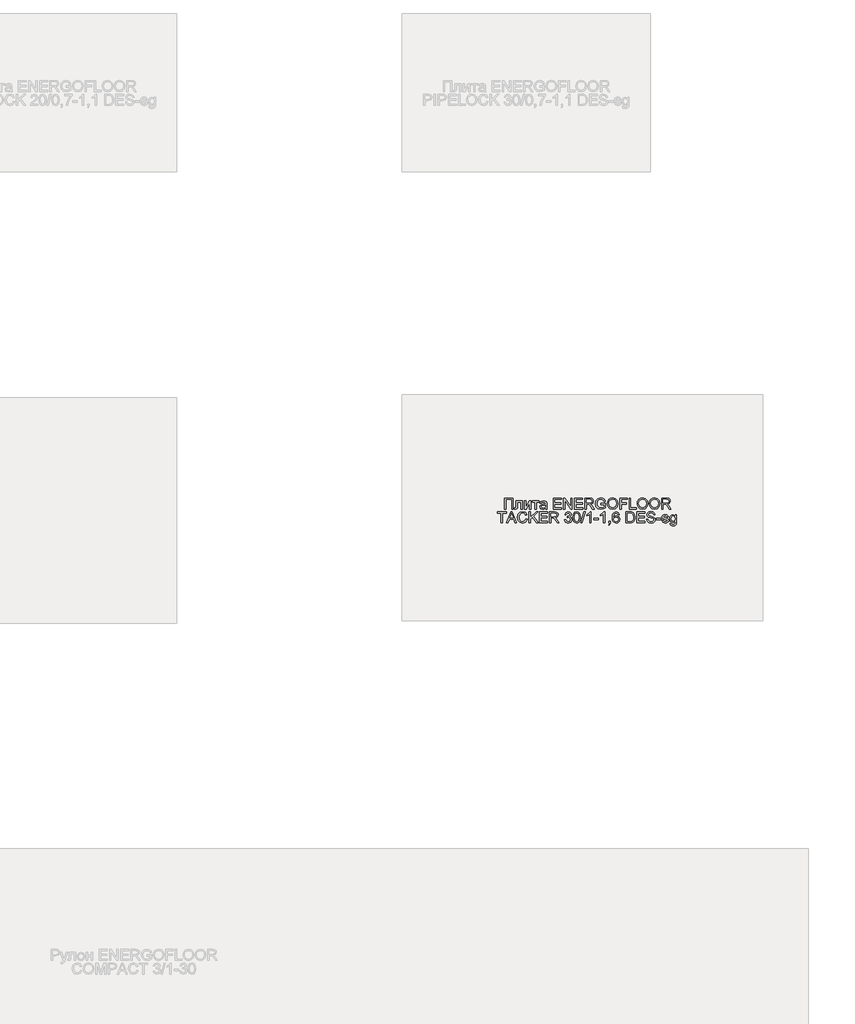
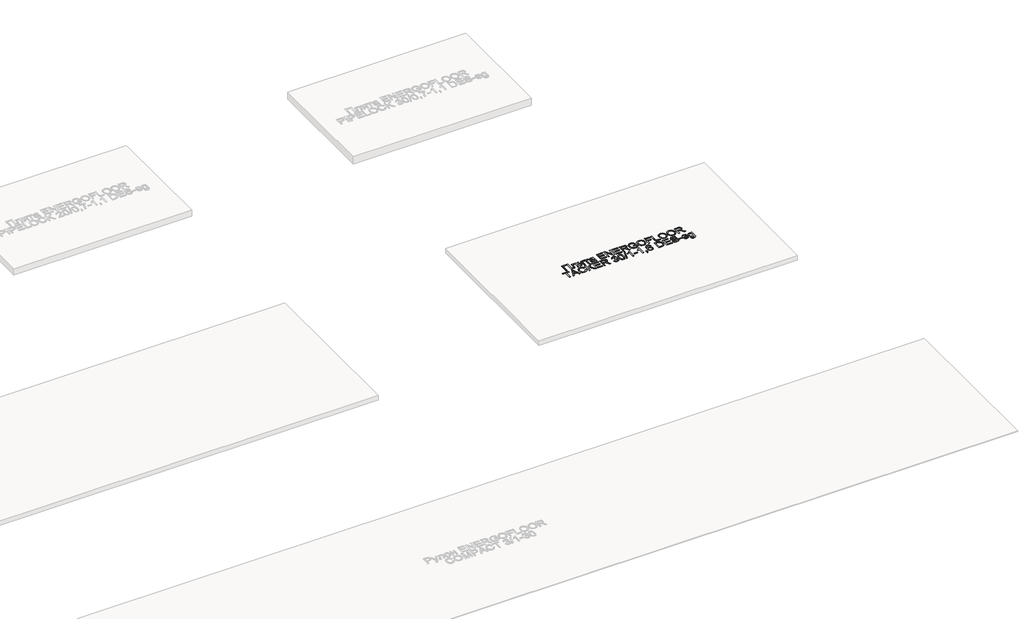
# One storey, part 4 of 7: 1 proxy.
"""IFC4 building model written with IfcOpenShell, lengths in millimetres."""

from ifc_helpers import new_model, si_unit, origin, origin_with_axes, place, context, project, spatial, polyline, outline, extrude, element, save

model = new_model("IFC4")

# Units and contexts
model_context = context("Model", 3, world=origin())
ifc_project = project(units=[si_unit("LENGTHUNIT", "METRE", prefix="MILLI")], contexts=[model_context])

# Site, building, storey
site = spatial("IfcSite", under=ifc_project)
building = spatial("IfcBuilding", under=site)
storey = spatial("IfcBuildingStorey", under=building, Name="Уровень 1", Elevation=0.0)

# Proxy
placement = place(None, origin())
element("IfcBuildingElementProxy", 1, Name="Текст модели ROLS ISOMARKET", ObjectType="Текст модели ROLS ISOMARKET", at=placement, inside=storey, context=model_context, shape_type="SweptSolid", body=[
    extrude(outline(polyline([(-12461.4992771, 9656.776011), (-12423.0377387, 9656.776011), (-12423.0377387, 9607.5452418), (-12429.1915848, 9607.5452418), (-12429.1915848, 9650.6221648), (-12455.345431, 9650.6221648), (-12455.345431, 9607.5452418), (-12461.4992771, 9607.5452418), (-12461.4992771, 9656.776011)])), origin_with_axes(), (0.0, 0.0, 1.0), 2.0),
    extrude(outline(polyline([(-12409.9608156, 9643.6990879), (-12382.2685079, 9643.6990879), (-12382.2685079, 9607.5812994), (-12388.4223541, 9607.5812994), (-12388.4223541, 9637.5452418), (-12403.8069695, 9637.5452418), (-12403.8069695, 9620.2976456), (-12404.2216329, 9612.3409148), (-12406.4992771, 9608.9815398), (-12411.8838925, 9607.5452418), (-12416.8838925, 9607.8577418), (-12416.8838925, 9613.6990879), (-12414.1314887, 9613.6990879), (-12411.3490368, 9614.0776937), (-12410.2372579, 9615.2796168), (-12409.9608156, 9620.6462033), (-12409.9608156, 9643.6990879)])), origin_with_axes(), (0.0, 0.0, 1.0), 2.0),
    extrude(outline(polyline([(-12373.0377387, 9643.6990879), (-12366.8838925, 9643.6990879), (-12366.8838925, 9616.1269725), (-12351.7637002, 9643.6990879), (-12343.8069695, 9643.6990879), (-12343.8069695, 9607.5452418), (-12349.9608156, 9607.5452418), (-12349.9608156, 9634.9490879), (-12364.9848541, 9607.5452418), (-12373.0377387, 9607.5452418), (-12373.0377387, 9643.6990879)])), origin_with_axes(), (0.0, 0.0, 1.0), 2.0),
    extrude(outline(polyline([(-12337.6531233, 9643.6990879), (-12308.4223541, 9643.6990879), (-12308.4223541, 9637.5452418), (-12319.9608156, 9637.5452418), (-12319.9608156, 9607.5452418), (-12326.1146618, 9607.5452418), (-12326.1146618, 9637.5452418), (-12337.6531233, 9637.5452418), (-12337.6531233, 9643.6990879)])), origin_with_axes(), (0.0, 0.0, 1.0), 2.0),
    extrude(outline(polyline([(-12279.9608156, 9612.1606264), (-12285.9283637, 9607.9899533), (-12292.5209118, 9606.776011), (-12301.4572098, 9609.6966841), (-12304.5762002, 9617.1606264), (-12303.3983156, 9622.0284148), (-12300.3033637, 9625.5620687), (-12295.9944695, 9627.5812994), (-12290.6699502, 9628.5067802), (-12279.9968733, 9630.6221648), (-12281.6555271, 9636.5356264), (-12288.4584118, 9638.3144725), (-12294.6843733, 9637.1305783), (-12297.6531233, 9632.9298571), (-12303.8069695, 9633.6990879), (-12301.1447098, 9639.7087033), (-12295.7841329, 9643.2303379), (-12287.6651425, 9644.4683187), (-12280.2072098, 9643.3745687), (-12275.9944695, 9640.6281744), (-12274.1074502, 9636.4514918), (-12273.8069695, 9631.0668764), (-12273.8069695, 9623.4106264), (-12273.4944695, 9612.7195206), (-12272.2685079, 9607.5452418), (-12278.4223541, 9607.5452418), (-12279.9608156, 9612.1606264)]), holes=[polyline([(-12279.9608156, 9624.4683187), (-12289.8887002, 9622.5812994), (-12295.1831714, 9621.5837033), (-12297.5810079, 9619.9611071), (-12298.4223541, 9617.5933187), (-12296.5894214, 9614.2639918), (-12291.2108156, 9612.9298571), (-12284.9848541, 9614.4022129), (-12280.970431, 9617.9659148), (-12279.9968733, 9622.7255302), (-12279.9608156, 9624.4683187)])]), origin_with_axes(), (0.0, 0.0, 1.0), 2.0),
    extrude(outline(polyline([(-12245.345431, 9607.5452418), (-12245.345431, 9656.776011), (-12209.9608156, 9656.776011), (-12209.9608156, 9650.6221648), (-12239.1915848, 9650.6221648), (-12239.1915848, 9636.0067802), (-12211.4992771, 9636.0067802), (-12211.4992771, 9629.8529341), (-12239.1915848, 9629.8529341), (-12239.1915848, 9613.6990879), (-12209.1915848, 9613.6990879), (-12209.1915848, 9607.5452418), (-12245.345431, 9607.5452418)])), origin_with_axes(), (0.0, 0.0, 1.0), 2.0),
    extrude(outline(polyline([(-12199.9608156, 9607.5452418), (-12199.9608156, 9656.776011), (-12193.3742771, 9656.776011), (-12167.6531233, 9617.7736071), (-12167.6531233, 9656.776011), (-12161.4992771, 9656.776011), (-12161.4992771, 9607.5452418), (-12168.0858156, 9607.5452418), (-12193.8069695, 9646.5596648), (-12193.8069695, 9607.5452418), (-12199.9608156, 9607.5452418)])), origin_with_axes(), (0.0, 0.0, 1.0), 2.0),
    extrude(outline(polyline([(-12150.7300464, 9607.5452418), (-12150.7300464, 9656.776011), (-12115.345431, 9656.776011), (-12115.345431, 9650.6221648), (-12144.5762002, 9650.6221648), (-12144.5762002, 9636.0067802), (-12116.8838925, 9636.0067802), (-12116.8838925, 9629.8529341), (-12144.5762002, 9629.8529341), (-12144.5762002, 9613.6990879), (-12114.5762002, 9613.6990879), (-12114.5762002, 9607.5452418), (-12150.7300464, 9607.5452418)])), origin_with_axes(), (0.0, 0.0, 1.0), 2.0),
    extrude(outline(polyline([(-12105.345431, 9607.5452418), (-12105.345431, 9656.776011), (-12084.1314887, 9656.776011), (-12074.2817291, 9655.447886), (-12068.8971137, 9650.7483668), (-12066.8838925, 9643.3024533), (-12070.2192291, 9634.432261), (-12080.5257195, 9629.8529341), (-12077.0281233, 9627.2207225), (-12072.0401425, 9620.8865879), (-12063.8310079, 9607.5452418), (-12070.9824502, 9607.5452418), (-12077.3887002, 9617.7495687), (-12082.0161041, 9624.5043764), (-12085.267306, 9627.6954821), (-12088.1939887, 9628.8673571), (-12091.7637002, 9629.0837033), (-12099.1915848, 9629.0837033), (-12099.1915848, 9607.5452418), (-12105.345431, 9607.5452418)]), holes=[polyline([(-12099.1915848, 9635.2375494), (-12085.4175464, 9635.2375494), (-12078.392306, 9636.1089437), (-12074.4019214, 9638.8974052), (-12073.0377387, 9643.0740879), (-12075.6399021, 9648.494761), (-12083.8670656, 9650.6221648), (-12099.1915848, 9650.6221648), (-12099.1915848, 9635.2375494)])]), origin_with_axes(), (0.0, 0.0, 1.0), 2.0),
    extrude(outline(polyline([(-12033.0377387, 9626.776011), (-12033.0377387, 9632.9298571), (-12013.0377387, 9632.9298571), (-12013.0377387, 9614.5284148), (-12022.9115368, 9608.7231264), (-12033.3502387, 9606.776011), (-12046.4932675, 9609.8709629), (-12055.4115368, 9618.8312994), (-12058.4223541, 9631.9202418), (-12055.423556, 9645.3036552), (-12046.7997579, 9654.5284148), (-12033.8430271, 9657.5452418), (-12024.2156233, 9655.7964437), (-12017.4668252, 9650.9286552), (-12013.7468733, 9642.7856264), (-12019.4199502, 9641.1870687), (-12022.2264406, 9646.8781744), (-12027.0221137, 9650.1594244), (-12033.939181, 9651.3913956), (-12041.8177868, 9650.0632706), (-12047.1783637, 9646.5776937), (-12050.345431, 9641.8361071), (-12052.2685079, 9632.1726456), (-12049.954806, 9621.4454821), (-12043.2240368, 9615.0272129), (-12033.8430271, 9612.9298571), (-12025.423556, 9614.510386), (-12019.1915848, 9617.8817802), (-12019.1915848, 9626.776011), (-12033.0377387, 9626.776011)])), origin_with_axes(), (0.0, 0.0, 1.0), 2.0),
    extrude(outline(polyline([(-12005.345431, 9631.5115879), (-12003.704806, 9642.3980062), (-11998.782931, 9650.6341841), (-11991.267907, 9655.8174773), (-11981.8478348, 9657.5452418), (-11969.6002387, 9654.3000494), (-11961.282931, 9645.2495687), (-11958.4223541, 9632.0764918), (-11961.4331714, 9618.7231264), (-11969.9668252, 9609.8048571), (-11981.8838925, 9606.776011), (-11994.2637002, 9610.1233668), (-12002.532931, 9619.2579821), (-12005.345431, 9631.5115879)]), holes=[polyline([(-11999.1915848, 9631.4514918), (-11994.2697098, 9617.8817802), (-11981.9199502, 9612.9298571), (-11969.4620175, 9617.9298571), (-11964.5762002, 9632.1245687), (-11966.6675464, 9642.2808187), (-11972.7793252, 9649.0055783), (-11981.8117771, 9651.3913956), (-11994.0593733, 9646.7940398), (-11997.908532, 9640.6597249), (-11999.1915848, 9631.4514918)])]), origin_with_axes(), (0.0, 0.0, 1.0), 2.0),
    extrude(outline(polyline([(-11949.9608156, 9607.5452418), (-11949.9608156, 9656.776011), (-11916.8838925, 9656.776011), (-11916.8838925, 9650.6221648), (-11943.8069695, 9650.6221648), (-11943.8069695, 9636.0067802), (-11920.7300464, 9636.0067802), (-11920.7300464, 9629.8529341), (-11943.8069695, 9629.8529341), (-11943.8069695, 9607.5452418), (-11949.9608156, 9607.5452418)])), origin_with_axes(), (0.0, 0.0, 1.0), 2.0),
    extrude(outline(polyline([(-11908.4223541, 9607.5452418), (-11908.4223541, 9656.776011), (-11902.2685079, 9656.776011), (-11902.2685079, 9613.6990879), (-11877.6531233, 9613.6990879), (-11877.6531233, 9607.5452418), (-11908.4223541, 9607.5452418)])), origin_with_axes(), (0.0, 0.0, 1.0), 2.0),
    extrude(outline(polyline([(-11873.0377387, 9631.5115879), (-11871.3971137, 9642.3980062), (-11866.4752387, 9650.6341841), (-11858.9602146, 9655.8174773), (-11849.5401425, 9657.5452418), (-11837.2925464, 9654.3000494), (-11828.9752387, 9645.2495687), (-11826.1146618, 9632.0764918), (-11829.1254791, 9618.7231264), (-11837.6591329, 9609.8048571), (-11849.5762002, 9606.776011), (-11861.9560079, 9610.1233668), (-11870.2252387, 9619.2579821), (-11873.0377387, 9631.5115879)]), holes=[polyline([(-11866.8838925, 9631.4514918), (-11861.9620175, 9617.8817802), (-11849.6122579, 9612.9298571), (-11837.1543252, 9617.9298571), (-11832.2685079, 9632.1245687), (-11834.3598541, 9642.2808187), (-11840.4716329, 9649.0055783), (-11849.5040848, 9651.3913956), (-11861.751681, 9646.7940398), (-11865.6008396, 9640.6597249), (-11866.8838925, 9631.4514918)])]), origin_with_axes(), (0.0, 0.0, 1.0), 2.0),
    extrude(outline(polyline([(-11819.9608156, 9631.5115879), (-11818.3201906, 9642.3980062), (-11813.3983156, 9650.6341841), (-11805.8832916, 9655.8174773), (-11796.4632195, 9657.5452418), (-11784.2156233, 9654.3000494), (-11775.8983156, 9645.2495687), (-11773.0377387, 9632.0764918), (-11776.048556, 9618.7231264), (-11784.5822098, 9609.8048571), (-11796.4992771, 9606.776011), (-11808.8790848, 9610.1233668), (-11817.1483156, 9619.2579821), (-11819.9608156, 9631.5115879)]), holes=[polyline([(-11813.8069695, 9631.4514918), (-11808.8850945, 9617.8817802), (-11796.5353348, 9612.9298571), (-11784.0774021, 9617.9298571), (-11779.1915848, 9632.1245687), (-11781.282931, 9642.2808187), (-11787.3947098, 9649.0055783), (-11796.4271618, 9651.3913956), (-11808.6747579, 9646.7940398), (-11812.5239166, 9640.6597249), (-11813.8069695, 9631.4514918)])]), origin_with_axes(), (0.0, 0.0, 1.0), 2.0),
    extrude(outline(polyline([(-11764.5762002, 9607.5452418), (-11764.5762002, 9656.776011), (-11743.3622579, 9656.776011), (-11733.5124983, 9655.447886), (-11728.1278829, 9650.7483668), (-11726.1146618, 9643.3024533), (-11729.4499983, 9634.432261), (-11739.7564887, 9629.8529341), (-11736.2588925, 9627.2207225), (-11731.2709118, 9620.8865879), (-11723.0617771, 9607.5452418), (-11730.2132195, 9607.5452418), (-11736.6194695, 9617.7495687), (-11741.2468733, 9624.5043764), (-11744.4980752, 9627.6954821), (-11747.4247579, 9628.8673571), (-11750.9944695, 9629.0837033), (-11758.4223541, 9629.0837033), (-11758.4223541, 9607.5452418), (-11764.5762002, 9607.5452418)]), holes=[polyline([(-11758.4223541, 9635.2375494), (-11744.6483156, 9635.2375494), (-11737.6230752, 9636.1089437), (-11733.6326906, 9638.8974052), (-11732.2685079, 9643.0740879), (-11734.8706714, 9648.494761), (-11743.0978348, 9650.6221648), (-11758.4223541, 9650.6221648), (-11758.4223541, 9635.2375494)])]), origin_with_axes(), (0.0, 0.0, 1.0), 2.0),
    extrude(outline(polyline([(-12476.1146618, 9546.776011), (-12476.1146618, 9589.8529341), (-12492.2685079, 9589.8529341), (-12492.2685079, 9596.0067802), (-12453.8069695, 9596.0067802), (-12453.8069695, 9589.8529341), (-12469.9608156, 9589.8529341), (-12469.9608156, 9546.776011), (-12476.1146618, 9546.776011)])), origin_with_axes(), (0.0, 0.0, 1.0), 2.0),
    extrude(outline(polyline([(-12452.6170656, 9546.776011), (-12432.9656233, 9596.0067802), (-12427.7252387, 9596.0067802), (-12408.0737964, 9546.776011), (-12414.5762002, 9546.776011), (-12420.2132195, 9562.1606264), (-12440.4896618, 9562.1606264), (-12446.1146618, 9546.776011), (-12452.6170656, 9546.776011)]), holes=[polyline([(-12438.2300464, 9568.3144725), (-12422.4608156, 9568.3144725), (-12426.8959118, 9580.4178379), (-12430.345431, 9589.8529341), (-12433.4103348, 9581.4755302), (-12438.2300464, 9568.3144725)])]), origin_with_axes(), (0.0, 0.0, 1.0), 2.0),
    extrude(outline(polyline([(-12366.8838925, 9564.276011), (-12360.7300464, 9562.6894725), (-12368.0257195, 9550.2796168), (-12380.9103348, 9546.0067802), (-12393.7168252, 9549.2399533), (-12401.2288445, 9558.6029341), (-12403.8069695, 9571.7639918), (-12400.892306, 9585.1413956), (-12392.6050464, 9593.8132706), (-12380.7781233, 9596.776011), (-12368.4524021, 9592.9418764), (-12361.4992771, 9582.1486071), (-12367.6531233, 9580.682261), (-12372.7012002, 9588.2483668), (-12381.0185079, 9590.6221648), (-12390.6459118, 9587.9899533), (-12396.0846137, 9580.9226456), (-12397.6531233, 9571.776011), (-12395.7961521, 9561.1750494), (-12390.0149021, 9554.4022129), (-12381.5233156, 9552.1606264), (-12372.1062483, 9555.213511), (-12366.8838925, 9564.276011)])), origin_with_axes(), (0.0, 0.0, 1.0), 2.0),
    extrude(outline(polyline([(-12352.2685079, 9546.776011), (-12352.2685079, 9596.0067802), (-12346.1146618, 9596.0067802), (-12346.1146618, 9571.9082225), (-12320.8742771, 9596.0067802), (-12312.2685079, 9596.0067802), (-12333.4584118, 9575.7663956), (-12311.4992771, 9546.776011), (-12319.0233156, 9546.776011), (-12337.8213925, 9571.6077418), (-12346.1146618, 9563.6990879), (-12346.1146618, 9546.776011), (-12352.2685079, 9546.776011)])), origin_with_axes(), (0.0, 0.0, 1.0), 2.0),
    extrude(outline(polyline([(-12306.8838925, 9546.776011), (-12306.8838925, 9596.0067802), (-12271.4992771, 9596.0067802), (-12271.4992771, 9589.8529341), (-12300.7300464, 9589.8529341), (-12300.7300464, 9575.2375494), (-12273.0377387, 9575.2375494), (-12273.0377387, 9569.0837033), (-12300.7300464, 9569.0837033), (-12300.7300464, 9552.9298571), (-12270.7300464, 9552.9298571), (-12270.7300464, 9546.776011), (-12306.8838925, 9546.776011)])), origin_with_axes(), (0.0, 0.0, 1.0), 2.0),
    extrude(outline(polyline([(-12261.4992771, 9546.776011), (-12261.4992771, 9596.0067802), (-12240.2853348, 9596.0067802), (-12230.4355752, 9594.6786552), (-12225.0509598, 9589.979136), (-12223.0377387, 9582.5332225), (-12226.3730752, 9573.6630302), (-12236.6795656, 9569.0837033), (-12233.1819695, 9566.4514918), (-12228.1939887, 9560.1173571), (-12219.9848541, 9546.776011), (-12227.1362964, 9546.776011), (-12233.5425464, 9556.9803379), (-12238.1699502, 9563.7351456), (-12241.4211521, 9566.9262514), (-12244.3478348, 9568.0981264), (-12247.9175464, 9568.3144725), (-12255.345431, 9568.3144725), (-12255.345431, 9546.776011), (-12261.4992771, 9546.776011)]), holes=[polyline([(-12255.345431, 9574.4683187), (-12241.5713925, 9574.4683187), (-12234.5461521, 9575.3397129), (-12230.5557675, 9578.1281744), (-12229.1915848, 9582.3048571), (-12231.7937483, 9587.7255302), (-12240.0209118, 9589.8529341), (-12255.345431, 9589.8529341), (-12255.345431, 9574.4683187)])]), origin_with_axes(), (0.0, 0.0, 1.0), 2.0),
    extrude(outline(polyline([(-12195.345431, 9559.8529341), (-12189.1915848, 9560.6221648), (-12185.7961521, 9554.1437994), (-12179.4439887, 9552.1606264), (-12171.9680271, 9554.8889918), (-12169.1915848, 9561.6437994), (-12171.9439887, 9568.0079821), (-12178.939181, 9570.526011), (-12183.2540848, 9569.8529341), (-12182.5689887, 9576.0067802), (-12174.6002387, 9577.7014918), (-12171.4992771, 9583.1341841), (-12173.7468733, 9587.947886), (-12179.5401425, 9589.8529341), (-12185.4055271, 9587.9298571), (-12188.4223541, 9582.1606264), (-12194.5762002, 9582.9298571), (-12189.5401425, 9592.5812994), (-12179.7564887, 9596.0067802), (-12172.3346137, 9594.3180783), (-12167.142306, 9589.7026937), (-12165.345431, 9583.494761), (-12167.0521618, 9577.8216841), (-12172.1002387, 9573.7471648), (-12165.3935079, 9569.5404341), (-12163.0377387, 9561.5356264), (-12167.7492771, 9550.526011), (-12179.6603348, 9546.0067802), (-12190.4536041, 9549.8649533), (-12195.345431, 9559.8529341)])), origin_with_axes(), (0.0, 0.0, 1.0), 2.0),
    extrude(outline(polyline([(-12157.6531233, 9570.994761), (-12155.8442291, 9585.1594244), (-12150.4716329, 9593.3264918), (-12141.4992771, 9596.0067802), (-12134.3117771, 9594.4202418), (-12129.3478348, 9589.8469244), (-12126.4632195, 9582.5632706), (-12125.345431, 9570.994761), (-12127.1362964, 9556.8901937), (-12132.4908637, 9548.7050975), (-12141.4992771, 9546.0067802), (-12152.7492771, 9550.6942802), (-12156.4271618, 9559.0206023), (-12157.6531233, 9570.994761)]), holes=[polyline([(-12151.4992771, 9571.0067802), (-12148.6146618, 9555.7243283), (-12141.4992771, 9552.1606264), (-12134.3838925, 9555.7363475), (-12131.4992771, 9571.0067802), (-12134.2877387, 9586.1149533), (-12141.5713925, 9589.8529341), (-12148.5185079, 9586.5596648), (-12151.4992771, 9571.0067802)])]), origin_with_axes(), (0.0, 0.0, 1.0), 2.0),
    extrude(outline(polyline([(-12123.0377387, 9546.776011), (-12109.1915848, 9596.0067802), (-12103.6387002, 9596.0067802), (-12117.4848541, 9546.776011), (-12123.0377387, 9546.776011)])), origin_with_axes(), (0.0, 0.0, 1.0), 2.0),
    extrude(outline(polyline([(-12077.6531233, 9546.776011), (-12083.8069695, 9546.776011), (-12083.8069695, 9585.1413956), (-12089.6362964, 9580.9887514), (-12096.1146618, 9577.8817802), (-12096.1146618, 9583.6990879), (-12087.0942291, 9589.4562994), (-12081.6194695, 9596.0067802), (-12077.6531233, 9596.0067802), (-12077.6531233, 9546.776011)])), origin_with_axes(), (0.0, 0.0, 1.0), 2.0),
    extrude(outline(polyline([(-12064.5762002, 9561.3913956), (-12064.5762002, 9567.5452418), (-12045.345431, 9567.5452418), (-12045.345431, 9561.3913956), (-12064.5762002, 9561.3913956)])), origin_with_axes(), (0.0, 0.0, 1.0), 2.0),
    extrude(outline(polyline([(-12016.8838925, 9546.776011), (-12023.0377387, 9546.776011), (-12023.0377387, 9585.1413956), (-12028.8670656, 9580.9887514), (-12035.345431, 9577.8817802), (-12035.345431, 9583.6990879), (-12026.3249983, 9589.4562994), (-12020.8502387, 9596.0067802), (-12016.8838925, 9596.0067802), (-12016.8838925, 9546.776011)])), origin_with_axes(), (0.0, 0.0, 1.0), 2.0),
    extrude(outline(polyline([(-11999.1915848, 9546.776011), (-11999.1915848, 9552.9298571), (-11993.0377387, 9552.9298571), (-11993.0377387, 9546.776011), (-11994.1435079, 9540.4839437), (-11997.6531233, 9536.776011), (-11999.1915848, 9539.0837033), (-11996.9319695, 9541.7399533), (-11996.126681, 9546.776011), (-11999.1915848, 9546.776011)])), origin_with_axes(), (0.0, 0.0, 1.0), 2.0),
    extrude(outline(polyline([(-11951.4992771, 9582.9298571), (-11957.6531233, 9582.1606264), (-11959.9848541, 9587.2928379), (-11966.1507195, 9589.8529341), (-11971.7036041, 9588.3625494), (-11975.9043252, 9582.7675975), (-11977.6531233, 9571.8000494), (-11972.2264406, 9576.7099052), (-11965.501681, 9578.3144725), (-11955.0449502, 9573.9274533), (-11950.7300464, 9562.5933187), (-11952.7612964, 9554.1017321), (-11958.3502387, 9548.0921168), (-11966.4151425, 9546.0067802), (-11978.9572098, 9551.5356264), (-11982.5945295, 9558.8553379), (-11983.8069695, 9569.7567802), (-11982.4608156, 9582.0133908), (-11978.4223541, 9590.3937994), (-11972.908532, 9594.603535), (-11965.7661041, 9596.0067802), (-11956.0425464, 9592.5332225), (-11951.4992771, 9582.9298571)]), holes=[polyline([(-11977.6531233, 9562.6894725), (-11976.2288445, 9557.3589437), (-11972.4427868, 9553.4887514), (-11966.8959118, 9552.1606264), (-11959.642306, 9554.9130302), (-11956.8838925, 9562.3889918), (-11959.6062483, 9569.5464437), (-11967.1483156, 9572.1606264), (-11974.5942291, 9569.5464437), (-11977.6531233, 9562.6894725)])]), origin_with_axes(), (0.0, 0.0, 1.0), 2.0),
    extrude(outline(polyline([(-11923.8069695, 9546.776011), (-11923.8069695, 9596.0067802), (-11906.8237964, 9596.0067802), (-11898.0377387, 9595.2976456), (-11890.8021618, 9591.776011), (-11884.9728348, 9583.3625494), (-11883.0377387, 9571.6558187), (-11884.3478348, 9561.7219244), (-11887.7132195, 9554.5524533), (-11892.2084118, 9550.0873091), (-11898.0918252, 9547.6173571), (-11906.0064887, 9546.776011), (-11923.8069695, 9546.776011)]), holes=[polyline([(-11917.6531233, 9552.9298571), (-11906.7637002, 9552.9298571), (-11898.8430271, 9553.8192802), (-11894.2757195, 9556.3312994), (-11890.5317291, 9562.4430783), (-11889.1915848, 9571.7519725), (-11891.8177868, 9583.4106264), (-11898.2060079, 9588.8673571), (-11906.9319695, 9589.8529341), (-11917.6531233, 9589.8529341), (-11917.6531233, 9552.9298571)])]), origin_with_axes(), (0.0, 0.0, 1.0), 2.0),
    extrude(outline(polyline([(-11874.5762002, 9546.776011), (-11874.5762002, 9596.0067802), (-11839.1915848, 9596.0067802), (-11839.1915848, 9589.8529341), (-11868.4223541, 9589.8529341), (-11868.4223541, 9575.2375494), (-11840.7300464, 9575.2375494), (-11840.7300464, 9569.0837033), (-11868.4223541, 9569.0837033), (-11868.4223541, 9552.9298571), (-11838.4223541, 9552.9298571), (-11838.4223541, 9546.776011), (-11874.5762002, 9546.776011)])), origin_with_axes(), (0.0, 0.0, 1.0), 2.0),
    extrude(outline(polyline([(-11831.4992771, 9563.6990879), (-11825.345431, 9563.6990879), (-11823.3622579, 9557.5392321), (-11818.5185079, 9553.6450014), (-11811.1387002, 9552.1606264), (-11804.7084118, 9553.2844244), (-11800.5557675, 9556.3733668), (-11799.1915848, 9560.5019725), (-11800.2132195, 9564.3421168), (-11804.3959118, 9567.1365879), (-11813.3562483, 9569.4863475), (-11823.001681, 9572.5212033), (-11828.236056, 9577.1005302), (-11829.9608156, 9583.2183187), (-11827.8274021, 9590.1834629), (-11821.595431, 9595.0993283), (-11812.4728348, 9596.776011), (-11802.7372579, 9595.0212033), (-11796.2468733, 9589.8649533), (-11793.8069695, 9582.1606264), (-11799.9608156, 9582.1606264), (-11803.4463925, 9588.4827418), (-11812.2324502, 9590.6221648), (-11821.0425464, 9588.5067802), (-11823.8069695, 9583.3986071), (-11821.8478348, 9579.1317802), (-11811.7997579, 9575.6942802), (-11800.9103348, 9572.6053379), (-11794.954806, 9567.6173571), (-11793.0377387, 9560.6582225), (-11795.2432675, 9553.2964437), (-11801.5894214, 9547.9238475), (-11810.8983156, 9546.0067802), (-11821.8899021, 9548.0740879), (-11828.8430271, 9554.3000494), (-11831.4992771, 9563.6990879)])), origin_with_axes(), (0.0, 0.0, 1.0), 2.0),
    extrude(outline(polyline([(-11787.6531233, 9561.3913956), (-11787.6531233, 9567.5452418), (-11768.4223541, 9567.5452418), (-11768.4223541, 9561.3913956), (-11787.6531233, 9561.3913956)])), origin_with_axes(), (0.0, 0.0, 1.0), 2.0),
    extrude(outline(polyline([(-11763.8069695, 9557.5452418), (-11757.6531233, 9558.3144725), (-11754.8045656, 9553.7471648), (-11748.2781233, 9552.1606264), (-11742.0040848, 9553.6149533), (-11739.9608156, 9557.0284148), (-11742.0161041, 9559.7928379), (-11748.3502387, 9561.5476456), (-11757.6170656, 9564.5584629), (-11761.6615368, 9568.0740879), (-11763.0377387, 9573.0380302), (-11761.9319695, 9577.6233668), (-11758.9151425, 9581.1269725), (-11755.0028829, 9582.947886), (-11749.7084118, 9583.6990879), (-11742.220431, 9582.4911552), (-11737.4608156, 9579.2219244), (-11735.345431, 9573.6990879), (-11741.4992771, 9572.9298571), (-11743.8129791, 9576.3252898), (-11749.2276425, 9577.5452418), (-11755.1170656, 9576.3793764), (-11756.8838925, 9573.6630302), (-11756.1507195, 9571.8721648), (-11753.8550464, 9570.5139918), (-11748.5545656, 9569.2038956), (-11739.5221137, 9566.307261), (-11735.3274021, 9563.026011), (-11733.8069695, 9557.6774533), (-11735.5918252, 9551.7880302), (-11740.7420656, 9547.5151937), (-11748.3622579, 9546.0067802), (-11759.095431, 9548.9154341), (-11763.8069695, 9557.5452418)])), origin_with_axes(), (0.0, 0.0, 1.0), 2.0),
    extrude(outline(polyline([(-11728.4223541, 9543.6990879), (-11722.2685079, 9542.9298571), (-11720.2733156, 9539.6846648), (-11714.2997579, 9538.3144725), (-11708.001681, 9539.8649533), (-11704.9968733, 9544.2159148), (-11704.5762002, 9551.3913956), (-11714.1915848, 9546.776011), (-11725.267306, 9552.1486071), (-11729.1915848, 9565.0332225), (-11727.4307675, 9574.5704821), (-11722.3346137, 9581.3192802), (-11714.4920656, 9583.6990879), (-11704.5762002, 9578.3144725), (-11704.5762002, 9582.9298571), (-11698.4223541, 9582.9298571), (-11698.4223541, 9551.7159148), (-11700.1050464, 9539.7627898), (-11705.4355752, 9534.2038956), (-11714.4199502, 9532.1606264), (-11724.6543252, 9535.0392321), (-11728.4223541, 9543.6990879)]), holes=[polyline([(-11723.0377387, 9565.4538956), (-11720.4115368, 9555.9286552), (-11713.8189887, 9552.9298571), (-11707.2384598, 9555.9106264), (-11704.5762002, 9565.2736071), (-11707.3165848, 9574.4502898), (-11713.9151425, 9577.5452418), (-11720.3754791, 9574.4983668), (-11723.0377387, 9565.4538956)])]), origin_with_axes(), (0.0, 0.0, 1.0), 2.0),
])

save(model, "model.ifc")
